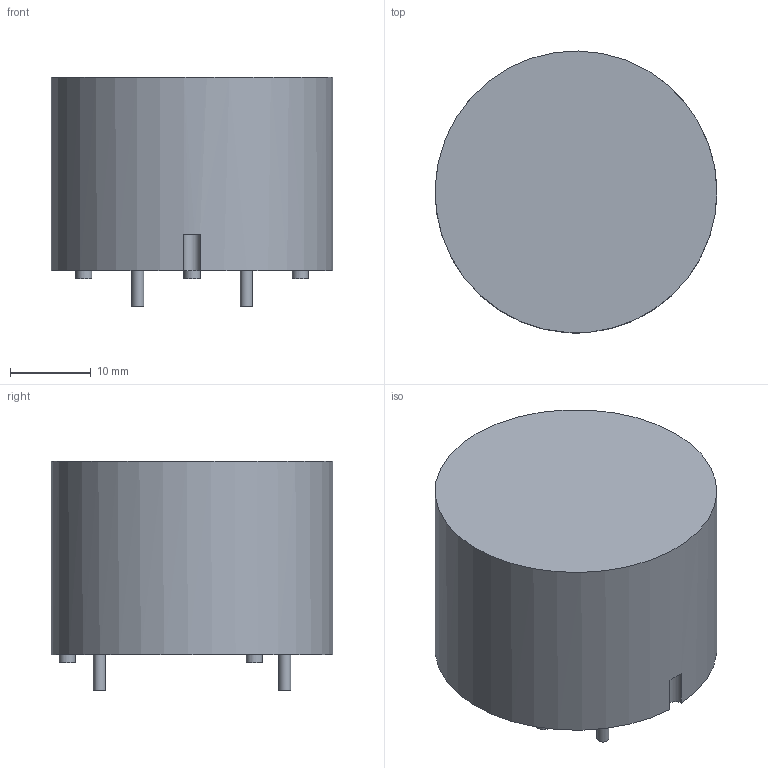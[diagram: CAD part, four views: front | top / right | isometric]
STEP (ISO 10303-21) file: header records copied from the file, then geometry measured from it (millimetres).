
FILE_DESCRIPTION(/* description */ (''),/* implementation_level */ '2;1');
FILE_NAME(/* name */ 'F:\Done\2016\产品3D模拟 新型号\修改针径\新建文件夹\6123-X213\6123-X213 3D Model.stp',/* time_stamp */ '2016-07-12T11:51:26+08:00',/* author */ ('CN000562'),/* organization */ (''),/* preprocessor_version */ 'ST-DEVELOPER v16.5',/* originating_system */ 'Autodesk Inventor 2017',/* authorisation */ '');
FILE_SCHEMA (('AUTOMOTIVE_DESIGN { 1 0 10303 214 3 1 1 }'));
Length unit declared in the file: millimetre
Products named in the file (1): 6123-X316
Bounding box: 34.99 x 35 x 28.5 mm (x, y, z)
Volume: 23125 mm3; surface area: 4671.7 mm2
Topology: 1 solids, 1 shells, 19 faces, 30 edges, 20 vertices
Faces by surface type: plane 10, cylinder 9
Full cylindrical faces by diameter (mm): 1.5 x4, 2 x3, 35 x1
Entity records: 424 total; most frequent: DIRECTION 80, CARTESIAN_POINT 60, ORIENTED_EDGE 42, AXIS2_PLACEMENT_3D 39, EDGE_LOOP 34, EDGE_CURVE 21, FACE_OUTER_BOUND 19, CIRCLE 19
